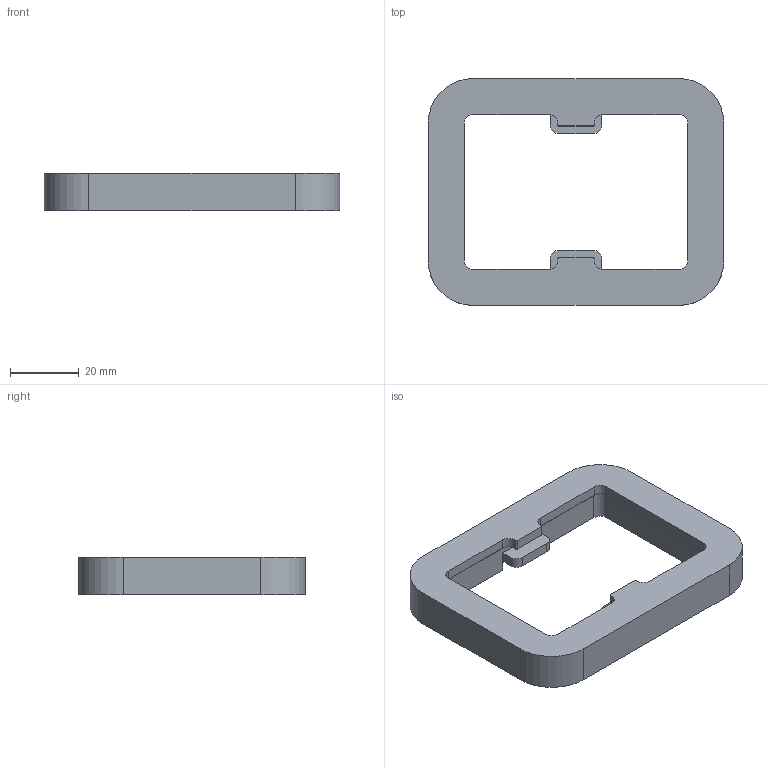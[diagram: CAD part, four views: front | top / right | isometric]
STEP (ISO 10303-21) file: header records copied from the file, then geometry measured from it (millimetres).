
FILE_DESCRIPTION(('Open CASCADE Model'),'2;1');
FILE_NAME('Open CASCADE Shape Model','2026-09-20T04:40:22',('Author'),( 'Open CASCADE'),'Open CASCADE STEP processor 8.0','Open CASCADE 8.0' ,'Unknown');
FILE_SCHEMA(('AP242_MANAGED_MODEL_BASED_3D_ENGINEERING_MIM_LF {1 0 10303 442 1 1 4 }' ));
Length unit declared in the file: millimetre
Products named in the file (1): Open CASCADE STEP translator 8.0 2
Bounding box: 86 x 66 x 11 mm (x, y, z)
Volume: 28661.7 mm3; surface area: 11496.3 mm2
Topology: 1 solids, 1 shells, 75 faces, 200 edges, 132 vertices
Faces by surface type: plane 43, cylinder 32
Full cylindrical faces by diameter (mm): 2.5 x4
Entity records: 4996 total; most frequent: CARTESIAN_POINT 880, DIRECTION 804, LINE 472, VECTOR 472, ORIENTED_EDGE 400, PCURVE 400, DEFINITIONAL_REPRESENTATION 400, EDGE_CURVE 200
